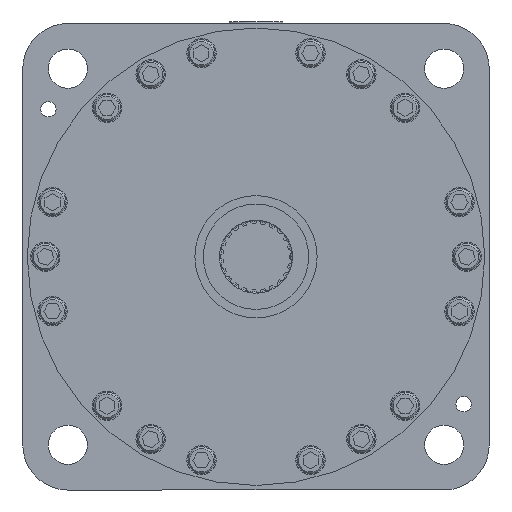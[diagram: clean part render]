
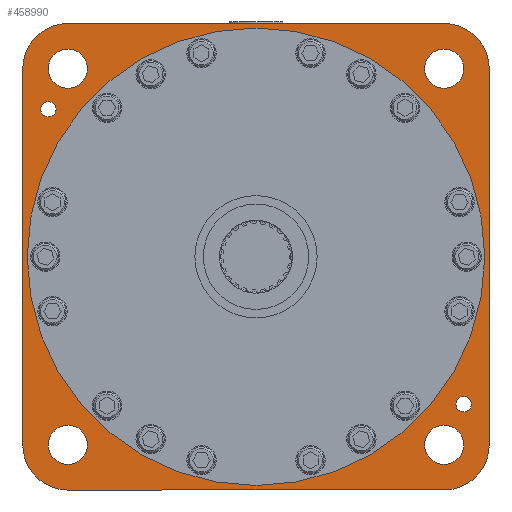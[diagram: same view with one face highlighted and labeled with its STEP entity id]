
A CAD part, left-side view. The second image highlights one B-rep face of the part: STEP entity #458990.
In plain terms, the highlighted planar face has unit normal (-1, 0, 0) as drawn and (0, 0, 1) by its records, which use the part's own axes.
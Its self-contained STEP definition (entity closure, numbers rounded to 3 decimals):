
#455350=CARTESIAN_POINT('',(267.,280.,17.));
#455360=VERTEX_POINT('',#455350);
#455440=CARTESIAN_POINT('',(293.,280.,17.));
#455450=VERTEX_POINT('',#455440);
#455480=CARTESIAN_POINT('',(280.,280.,17.));
#455490=DIRECTION('',(0.,0.,1.));
#455500=DIRECTION('',(1.,0.,0.));
#455510=AXIS2_PLACEMENT_3D('',#455480,#455490,#455500);
#455520=CIRCLE('',#455510,13.);
#455530=EDGE_CURVE('',#455360,#455450,#455520,.T.);
#455670=CARTESIAN_POINT('',(17.,280.,17.));
#455680=VERTEX_POINT('',#455670);
#455760=CARTESIAN_POINT('',(43.,280.,17.));
#455770=VERTEX_POINT('',#455760);
#455800=CARTESIAN_POINT('',(30.,280.,17.));
#455810=DIRECTION('',(0.,0.,1.));
#455820=DIRECTION('',(1.,0.,0.));
#455830=AXIS2_PLACEMENT_3D('',#455800,#455810,#455820);
#455840=CIRCLE('',#455830,13.);
#455850=EDGE_CURVE('',#455680,#455770,#455840,.T.);
#455990=CARTESIAN_POINT('',(17.,30.,17.));
#456000=VERTEX_POINT('',#455990);
#456080=CARTESIAN_POINT('',(43.,30.,17.));
#456090=VERTEX_POINT('',#456080);
#456120=CARTESIAN_POINT('',(30.,30.,17.));
#456130=DIRECTION('',(0.,0.,1.));
#456140=DIRECTION('',(1.,0.,0.));
#456150=AXIS2_PLACEMENT_3D('',#456120,#456130,#456140);
#456160=CIRCLE('',#456150,13.);
#456170=EDGE_CURVE('',#456000,#456090,#456160,.T.);
#456310=CARTESIAN_POINT('',(267.,30.,17.));
#456320=VERTEX_POINT('',#456310);
#456400=CARTESIAN_POINT('',(293.,30.,17.));
#456410=VERTEX_POINT('',#456400);
#456440=CARTESIAN_POINT('',(280.,30.,17.));
#456450=DIRECTION('',(0.,0.,1.));
#456460=DIRECTION('',(1.,0.,0.));
#456470=AXIS2_PLACEMENT_3D('',#456440,#456450,#456460);
#456480=CIRCLE('',#456470,13.);
#456490=EDGE_CURVE('',#456320,#456410,#456480,.T.);
#456630=CARTESIAN_POINT('',(247.875,293.,17.));
#456640=VERTEX_POINT('',#456630);
#456720=CARTESIAN_POINT('',(258.125,293.,17.));
#456730=VERTEX_POINT('',#456720);
#456760=CARTESIAN_POINT('',(253.,293.,17.));
#456770=DIRECTION('',(0.,0.,1.));
#456780=DIRECTION('',(1.,0.,0.));
#456790=AXIS2_PLACEMENT_3D('',#456760,#456770,#456780);
#456800=CIRCLE('',#456790,5.125);
#456810=EDGE_CURVE('',#456640,#456730,#456800,.T.);
#457020=CARTESIAN_POINT('',(51.875,17.,17.));
#457030=VERTEX_POINT('',#457020);
#457110=CARTESIAN_POINT('',(62.125,17.,17.));
#457120=VERTEX_POINT('',#457110);
#457150=CARTESIAN_POINT('',(57.,17.,17.));
#457160=DIRECTION('',(0.,0.,1.));
#457170=DIRECTION('',(1.,0.,0.));
#457180=AXIS2_PLACEMENT_3D('',#457150,#457160,#457170);
#457190=CIRCLE('',#457180,5.125);
#457200=EDGE_CURVE('',#457030,#457120,#457190,.T.);
#457790=CARTESIAN_POINT('',(155.,-63.75,17.));
#457800=DIRECTION('',(-0.,0.,1.));
#457810=DIRECTION('',(0.,-1.,0.));
#457820=AXIS2_PLACEMENT_3D('',#457790,#457800,#457810);
#457830=PLANE('',#457820);
#457840=EDGE_CURVE('',#457120,#457030,#457190,.T.);
#457850=ORIENTED_EDGE('',*,*,#457840,.F.);
#457860=ORIENTED_EDGE('',*,*,#457200,.F.);
#457870=EDGE_LOOP('',(#457860,#457850));
#457880=FACE_BOUND('',#457870,.T.);
#457890=EDGE_CURVE('',#456090,#456000,#456160,.T.);
#457900=ORIENTED_EDGE('',*,*,#457890,.F.);
#457910=ORIENTED_EDGE('',*,*,#456170,.F.);
#457920=EDGE_LOOP('',(#457910,#457900));
#457930=FACE_BOUND('',#457920,.T.);
#457940=EDGE_CURVE('',#456410,#456320,#456480,.T.);
#457950=ORIENTED_EDGE('',*,*,#457940,.F.);
#457960=ORIENTED_EDGE('',*,*,#456490,.F.);
#457970=EDGE_LOOP('',(#457960,#457950));
#457980=FACE_BOUND('',#457970,.T.);
#457990=EDGE_CURVE('',#455770,#455680,#455840,.T.);
#458000=ORIENTED_EDGE('',*,*,#457990,.F.);
#458010=ORIENTED_EDGE('',*,*,#455850,.F.);
#458020=EDGE_LOOP('',(#458010,#458000));
#458030=FACE_BOUND('',#458020,.T.);
#458040=EDGE_CURVE('',#456730,#456640,#456800,.T.);
#458050=ORIENTED_EDGE('',*,*,#458040,.F.);
#458060=ORIENTED_EDGE('',*,*,#456810,.F.);
#458070=EDGE_LOOP('',(#458060,#458050));
#458080=FACE_BOUND('',#458070,.T.);
#458090=EDGE_CURVE('',#455450,#455360,#455520,.T.);
#458100=ORIENTED_EDGE('',*,*,#458090,.F.);
#458110=ORIENTED_EDGE('',*,*,#455530,.F.);
#458120=EDGE_LOOP('',(#458110,#458100));
#458130=FACE_BOUND('',#458120,.T.);
#458140=CARTESIAN_POINT('',(155.,155.,17.));
#458150=DIRECTION('',(0.,0.,1.));
#458160=DIRECTION('',(0.,-1.,0.));
#458170=AXIS2_PLACEMENT_3D('',#458140,#458150,#458160);
#458180=CIRCLE('',#458170,152.);
#458190=CARTESIAN_POINT('',(155.,3.,17.));
#458200=VERTEX_POINT('',#458190);
#458210=CARTESIAN_POINT('',(155.,307.,17.));
#458220=VERTEX_POINT('',#458210);
#458230=EDGE_CURVE('',#458200,#458220,#458180,.T.);
#458240=ORIENTED_EDGE('',*,*,#458230,.F.);
#458250=EDGE_CURVE('',#458220,#458200,#458180,.T.);
#458260=ORIENTED_EDGE('',*,*,#458250,.F.);
#458270=EDGE_LOOP('',(#458260,#458240));
#458280=FACE_BOUND('',#458270,.T.);
#458290=CARTESIAN_POINT('',(0.,0.,17.));
#458300=DIRECTION('',(0.,1.,0.));
#458310=VECTOR('',#458300,1.);
#458320=LINE('',#458290,#458310);
#458330=CARTESIAN_POINT('',(0.,30.,17.));
#458340=VERTEX_POINT('',#458330);
#458350=CARTESIAN_POINT('',(0.,280.,17.));
#458360=VERTEX_POINT('',#458350);
#458370=EDGE_CURVE('',#458340,#458360,#458320,.T.);
#458380=ORIENTED_EDGE('',*,*,#458370,.F.);
#458390=CARTESIAN_POINT('',(30.,280.,17.));
#458400=DIRECTION('',(0.,0.,1.));
#458410=DIRECTION('',(1.,0.,0.));
#458420=AXIS2_PLACEMENT_3D('',#458390,#458400,#458410);
#458430=CIRCLE('',#458420,30.);
#458440=CARTESIAN_POINT('',(30.,310.,17.));
#458450=VERTEX_POINT('',#458440);
#458460=EDGE_CURVE('',#458450,#458360,#458430,.T.);
#458470=ORIENTED_EDGE('',*,*,#458460,.T.);
#458480=CARTESIAN_POINT('',(0.,310.,17.));
#458490=DIRECTION('',(1.,0.,0.));
#458500=VECTOR('',#458490,1.);
#458510=LINE('',#458480,#458500);
#458520=CARTESIAN_POINT('',(280.,310.,17.));
#458530=VERTEX_POINT('',#458520);
#458540=EDGE_CURVE('',#458450,#458530,#458510,.T.);
#458550=ORIENTED_EDGE('',*,*,#458540,.F.);
#458560=CARTESIAN_POINT('',(280.,280.,17.));
#458570=DIRECTION('',(0.,0.,1.));
#458580=DIRECTION('',(1.,0.,0.));
#458590=AXIS2_PLACEMENT_3D('',#458560,#458570,#458580);
#458600=CIRCLE('',#458590,30.);
#458610=CARTESIAN_POINT('',(310.,280.,17.));
#458620=VERTEX_POINT('',#458610);
#458630=EDGE_CURVE('',#458620,#458530,#458600,.T.);
#458640=ORIENTED_EDGE('',*,*,#458630,.T.);
#458650=CARTESIAN_POINT('',(310.,0.,17.));
#458660=DIRECTION('',(0.,-1.,0.));
#458670=VECTOR('',#458660,1.);
#458680=LINE('',#458650,#458670);
#458690=CARTESIAN_POINT('',(310.,30.,17.));
#458700=VERTEX_POINT('',#458690);
#458710=EDGE_CURVE('',#458620,#458700,#458680,.T.);
#458720=ORIENTED_EDGE('',*,*,#458710,.F.);
#458730=CARTESIAN_POINT('',(280.,30.,17.));
#458740=DIRECTION('',(0.,0.,1.));
#458750=DIRECTION('',(1.,0.,0.));
#458760=AXIS2_PLACEMENT_3D('',#458730,#458740,#458750);
#458770=CIRCLE('',#458760,30.);
#458780=CARTESIAN_POINT('',(280.,0.,17.));
#458790=VERTEX_POINT('',#458780);
#458800=EDGE_CURVE('',#458790,#458700,#458770,.T.);
#458810=ORIENTED_EDGE('',*,*,#458800,.T.);
#458820=CARTESIAN_POINT('',(0.,0.,17.));
#458830=DIRECTION('',(-1.,0.,0.));
#458840=VECTOR('',#458830,1.);
#458850=LINE('',#458820,#458840);
#458860=CARTESIAN_POINT('',(30.,0.,17.));
#458870=VERTEX_POINT('',#458860);
#458880=EDGE_CURVE('',#458790,#458870,#458850,.T.);
#458890=ORIENTED_EDGE('',*,*,#458880,.F.);
#458900=CARTESIAN_POINT('',(30.,30.,17.));
#458910=DIRECTION('',(0.,0.,1.));
#458920=DIRECTION('',(1.,0.,0.));
#458930=AXIS2_PLACEMENT_3D('',#458900,#458910,#458920);
#458940=CIRCLE('',#458930,30.);
#458950=EDGE_CURVE('',#458340,#458870,#458940,.T.);
#458960=ORIENTED_EDGE('',*,*,#458950,.T.);
#458970=EDGE_LOOP('',(#458960,#458890,#458810,#458720,#458640,#458550,
#458470,#458380));
#458980=FACE_OUTER_BOUND('',#458970,.T.);
#458990=ADVANCED_FACE('',(#457880,#457930,#457980,#458030,#458080,
#458130,#458280,#458980),#457830,.T.);
